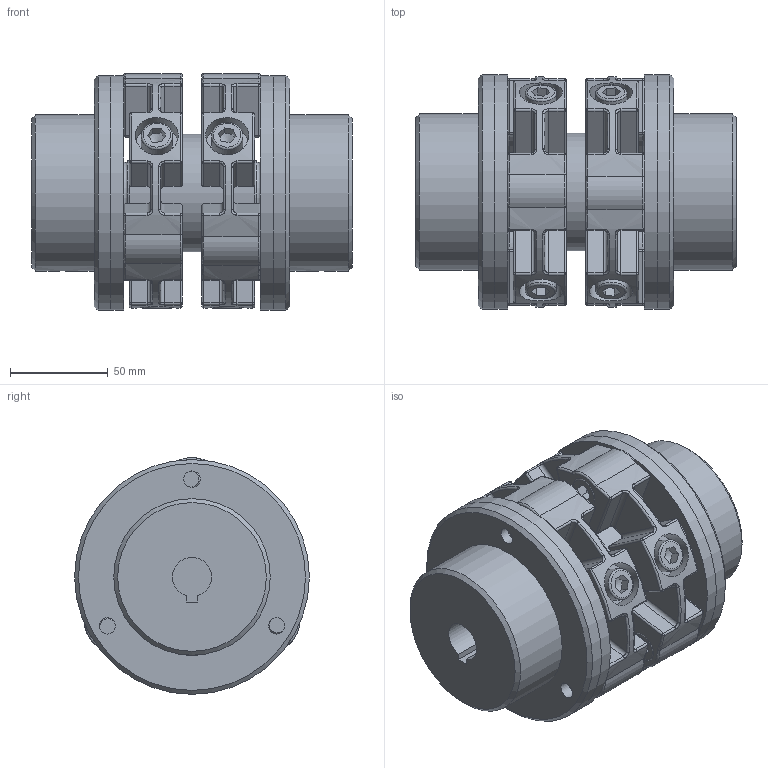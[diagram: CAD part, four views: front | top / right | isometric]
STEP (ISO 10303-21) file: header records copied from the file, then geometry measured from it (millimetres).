
FILE_DESCRIPTION(/* description */ (''),/* implementation_level */ '2;1');
FILE_NAME(/* name */ 'GXZ08-L80-20-PF-20-PF',/* time_stamp */ '2024-01-05T15:36:44+01:00',/* author */ ('M. Horlacher'),/* organization */ (''),/* preprocessor_version */ 'ST-DEVELOPER v20',/* originating_system */ 'Autodesk Inventor 2024',/* authorisation */ '');
FILE_SCHEMA (('AUTOMOTIVE_DESIGN { 1 0 10303 214 3 1 1 }'));
Length unit declared in the file: millimetre
Products named in the file (9): RP STEP; VE Rohr Dummy; GX08-Nabe; GX08 Befestigungssatz ST; 080305-1410s; 100305-1058s; ISO 4762 - M10 x 30 - 8.8 - VZ A1A; GX08-Nabe_1; 240511-0900rb
Assembly tree (15 placements, depth 3):
  RP STEP
    VE Rohr Dummy
    GX08 Befestigungssatz ST  x2
      080305-1410s
      100305-1058s
      ISO 4762 - M10 x 30 - 8.8 - VZ A1A
    GX08-Nabe
    GX08-Nabe_1
    240511-0900rb  x2
Bounding box: 164 x 120 x 120.99 mm (x, y, z)
Volume: 1069779.3 mm3; surface area: 278960.2 mm2
Topology: 21 solids, 21 shells, 910 faces, 2150 edges, 1214 vertices
Faces by surface type: cylinder 292, plane 246, torus 148, sphere 98, bspline 96, cone 30
Full cylindrical faces by diameter (mm): 6.647 x2, 8.376 x12, 10 x24, 11 x6, 16 x18, 22 x6, 36 x2, 57 x3, 60 x3, 80 x2, 115 x4, 120 x4
Entity records: 13402 total; most frequent: CARTESIAN_POINT 4175, DIRECTION 1958, ORIENTED_EDGE 1776, EDGE_CURVE 888, AXIS2_PLACEMENT_3D 840, VERTEX_POINT 517, EDGE_LOOP 461, CIRCLE 459
